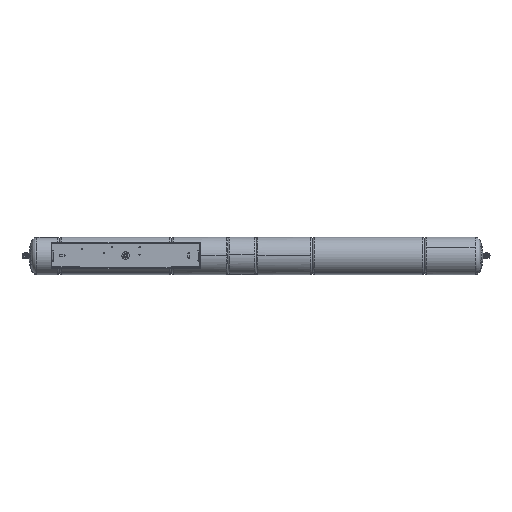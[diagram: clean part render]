
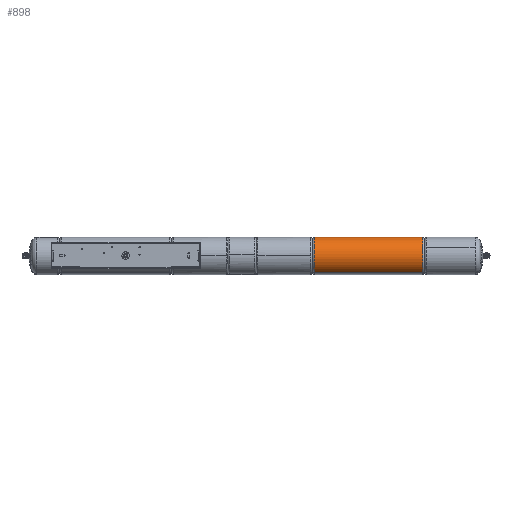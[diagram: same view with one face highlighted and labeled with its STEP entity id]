
A CAD part, top view. The second image highlights one B-rep face of the part: STEP entity #898.
In plain terms, the highlighted cylindrical face has radius 50 mm (diameter 100 mm), a partial arc.
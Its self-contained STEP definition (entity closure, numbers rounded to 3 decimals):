
#898=ADVANCED_FACE('',(#1972),#16484,.T.);
#1972=FACE_OUTER_BOUND('',#3089,.T.);
#3089=EDGE_LOOP('',(#5320,#5321,#5322,#5323));
#5320=ORIENTED_EDGE('',*,*,#9828,.T.);
#5321=ORIENTED_EDGE('',*,*,#9798,.F.);
#5322=ORIENTED_EDGE('',*,*,#9807,.F.);
#5323=ORIENTED_EDGE('',*,*,#9805,.T.);
#9798=EDGE_CURVE('',#14669,#14671,#13282,.T.);
#9805=EDGE_CURVE('',#14676,#14677,#13289,.T.);
#9807=EDGE_CURVE('',#14676,#14669,#12012,.T.);
#9828=EDGE_CURVE('',#14677,#14671,#12017,.T.);
#12012=B_SPLINE_CURVE_WITH_KNOTS('',1,(#24287,#24288),.UNSPECIFIED.,.F.,
 .F.,(2,2),(29.32,321.32),.UNSPECIFIED.);
#12017=B_SPLINE_CURVE_WITH_KNOTS('',1,(#24353,#24354),.UNSPECIFIED.,.F.,
 .F.,(2,2),(29.32,321.32),.UNSPECIFIED.);
#13282=(
BOUNDED_CURVE()
B_SPLINE_CURVE(2,(#24252,#24253,#24254,#24255,#24256),.UNSPECIFIED.,.F.,
 .F.)
B_SPLINE_CURVE_WITH_KNOTS((3,2,3),(0.,72.257,144.513),
 .UNSPECIFIED.)
CURVE()
GEOMETRIC_REPRESENTATION_ITEM()
RATIONAL_B_SPLINE_CURVE((1.,0.707,1.,0.707,1.))
REPRESENTATION_ITEM('')
);
#13289=(
BOUNDED_CURVE()
B_SPLINE_CURVE(2,(#24279,#24280,#24281,#24282,#24283),.UNSPECIFIED.,.F.,
 .F.)
B_SPLINE_CURVE_WITH_KNOTS((3,2,3),(78.54,157.08,235.619),
 .UNSPECIFIED.)
CURVE()
GEOMETRIC_REPRESENTATION_ITEM()
RATIONAL_B_SPLINE_CURVE((1.,0.707,1.,0.707,1.))
REPRESENTATION_ITEM('')
);
#14669=VERTEX_POINT('',#24055);
#14671=VERTEX_POINT('',#24057);
#14676=VERTEX_POINT('',#24062);
#14677=VERTEX_POINT('',#24063);
#16484=CYLINDRICAL_SURFACE('',#17221,50.);
#17221=AXIS2_PLACEMENT_3D('',#23467,#17984,$);
#17984=DIRECTION('',(1.,0.,0.));
#23467=CARTESIAN_POINT('',(920.,0.,-542.));
#24055=CARTESIAN_POINT('',(1066.,44.998,-563.799));
#24057=CARTESIAN_POINT('',(1066.,-44.998,-520.201));
#24062=CARTESIAN_POINT('',(774.,44.998,-563.799));
#24063=CARTESIAN_POINT('',(774.,-44.998,-520.201));
#24252=CARTESIAN_POINT('',(1066.,44.998,-563.799));
#24253=CARTESIAN_POINT('',(1066.,66.797,-518.801));
#24254=CARTESIAN_POINT('',(1066.,21.799,-497.002));
#24255=CARTESIAN_POINT('',(1066.,-23.199,-475.203));
#24256=CARTESIAN_POINT('',(1066.,-44.998,-520.201));
#24279=CARTESIAN_POINT('',(774.,44.998,-563.799));
#24280=CARTESIAN_POINT('',(774.,66.797,-518.801));
#24281=CARTESIAN_POINT('',(774.,21.799,-497.002));
#24282=CARTESIAN_POINT('',(774.,-23.199,-475.203));
#24283=CARTESIAN_POINT('',(774.,-44.998,-520.201));
#24287=CARTESIAN_POINT('',(774.,44.998,-563.799));
#24288=CARTESIAN_POINT('',(1066.,44.998,-563.799));
#24353=CARTESIAN_POINT('',(774.,-44.998,-520.201));
#24354=CARTESIAN_POINT('',(1066.,-44.998,-520.201));
